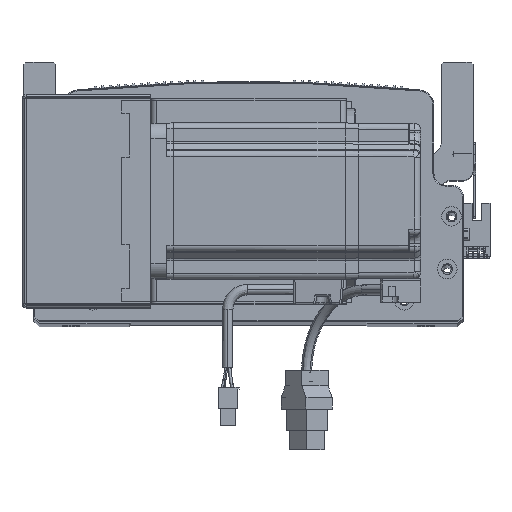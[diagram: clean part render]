
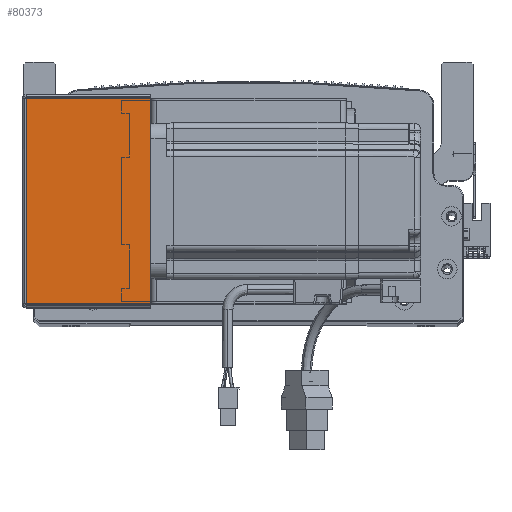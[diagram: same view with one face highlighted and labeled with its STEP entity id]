
A CAD part, top view. The second image highlights one B-rep face of the part: STEP entity #80373.
In plain terms, the highlighted planar face has unit normal (0, 0, 1) as drawn and (0, 0, -1) by its records, which use the part's own axes.
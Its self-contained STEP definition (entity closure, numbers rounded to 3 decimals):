
#1430 = CARTESIAN_POINT ( 'NONE',  ( 0.737, 0.707, -205.5 ) ) ;
#9080 = CARTESIAN_POINT ( 'NONE',  ( 0.737, 105.293, -205.5 ) ) ;
#13397 = ORIENTED_EDGE ( 'NONE', *, *, #49022, .T. ) ;
#13963 = VERTEX_POINT ( 'NONE', #1430 ) ;
#14085 = VECTOR ( 'NONE', #15642, 1000. ) ;
#15593 = LINE ( 'NONE', #39711, #48270 ) ;
#15642 = DIRECTION ( 'NONE',  ( 0., -1., 0. ) ) ;
#19512 = ORIENTED_EDGE ( 'NONE', *, *, #51761, .T. ) ;
#19876 = VERTEX_POINT ( 'NONE', #9080 ) ;
#20516 = DIRECTION ( 'NONE',  ( 0., -1., 0. ) ) ;
#23642 = VECTOR ( 'NONE', #38802, 1000. ) ;
#26267 = LINE ( 'NONE', #54418, #14085 ) ;
#29755 = VERTEX_POINT ( 'NONE', #57092 ) ;
#35422 = DIRECTION ( 'NONE',  ( 0., 0., 1. ) ) ;
#36064 = FACE_OUTER_BOUND ( 'NONE', #49845, .T. ) ;
#36817 = LINE ( 'NONE', #60714, #58244 ) ;
#38802 = DIRECTION ( 'NONE',  ( 1., 0., 0. ) ) ;
#38917 = EDGE_CURVE ( 'NONE', #13963, #59447, #36817, .T. ) ;
#39711 = CARTESIAN_POINT ( 'NONE',  ( 0.737, 0., -205.5 ) ) ;
#41444 = CARTESIAN_POINT ( 'NONE',  ( 0., 0., -205.5 ) ) ;
#48270 = VECTOR ( 'NONE', #20516, 1000. ) ;
#49022 = EDGE_CURVE ( 'NONE', #19876, #29755, #53263, .T. ) ;
#49845 = EDGE_LOOP ( 'NONE', ( #70688, #13397, #19512, #82220 ) ) ;
#51761 = EDGE_CURVE ( 'NONE', #29755, #59447, #26267, .T. ) ;
#53263 = LINE ( 'NONE', #64701, #23642 ) ;
#53853 = DIRECTION ( 'NONE',  ( 1., 0., 0. ) ) ;
#54202 = DIRECTION ( 'NONE',  ( 1., 0., 0. ) ) ;
#54418 = CARTESIAN_POINT ( 'NONE',  ( 64.5, 0., -205.5 ) ) ;
#55174 = AXIS2_PLACEMENT_3D ( 'NONE', #41444, #35422, #54202 ) ;
#57092 = CARTESIAN_POINT ( 'NONE',  ( 64.5, 105.293, -205.5 ) ) ;
#58244 = VECTOR ( 'NONE', #53853, 1000. ) ;
#59447 = VERTEX_POINT ( 'NONE', #62194 ) ;
#60714 = CARTESIAN_POINT ( 'NONE',  ( 0., 0.707, -205.5 ) ) ;
#62194 = CARTESIAN_POINT ( 'NONE',  ( 64.5, 0.707, -205.5 ) ) ;
#64701 = CARTESIAN_POINT ( 'NONE',  ( 0., 105.293, -205.5 ) ) ;
#70688 = ORIENTED_EDGE ( 'NONE', *, *, #73530, .F. ) ;
#73530 = EDGE_CURVE ( 'NONE', #19876, #13963, #15593, .T. ) ;
#80373 = ADVANCED_FACE ( 'NONE', ( #36064 ), #80709, .F. ) ;
#80709 = PLANE ( 'NONE',  #55174 ) ;
#82220 = ORIENTED_EDGE ( 'NONE', *, *, #38917, .F. ) ;
